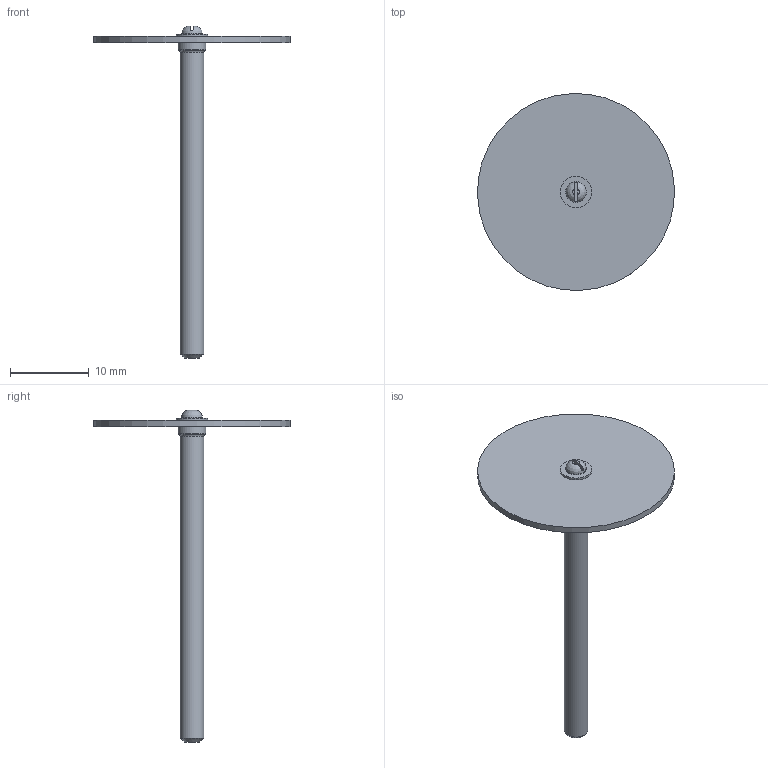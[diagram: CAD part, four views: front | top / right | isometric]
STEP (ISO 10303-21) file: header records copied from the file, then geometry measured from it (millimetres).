
FILE_DESCRIPTION(/* description */ (''),/* implementation_level */ '2;1');
FILE_NAME(/* name */ 'UF7325.stp',/* time_stamp */ '2026-08-10T11:52:00+03:00',/* author */ ('harel'),/* organization */ (''),/* preprocessor_version */ 'ST-DEVELOPER v20',/* originating_system */ 'Autodesk Inventor 2025',/* authorisation */ '');
FILE_SCHEMA (('AUTOMOTIVE_DESIGN { 1 0 10303 214 3 1 1 }'));
Length unit declared in the file: millimetre
Products named in the file (5): UF7313; Part5; disk; CNS 9671 - M1.4 x 4; ISO 7091 - ST 1.6 - 100 HV
Assembly tree (4 placements, depth 2):
  UF7313
    Part5
    disk
    CNS 9671 - M1.4 x 4
    ISO 7091 - ST 1.6 - 100 HV
Bounding box: 24.97 x 24.97 x 42.12 mm (x, y, z)
Volume: 683 mm3; surface area: 1515.3 mm2
Topology: 4 solids, 4 shells, 30 faces, 55 edges, 35 vertices
Faces by surface type: plane 12, cylinder 9, cone 4, torus 2, sphere 2, bspline 1
Full cylindrical faces by diameter (mm): 1.183 x1, 1.216 x1, 1.4 x1, 1.6 x1, 1.8 x1, 3 x1, 3.5 x1, 4 x1, 25 x1
Entity records: 1038 total; most frequent: CARTESIAN_POINT 194, DIRECTION 163, ORIENTED_EDGE 110, AXIS2_PLACEMENT_3D 74, EDGE_CURVE 55, EDGE_LOOP 36, CIRCLE 35, VERTEX_POINT 35
